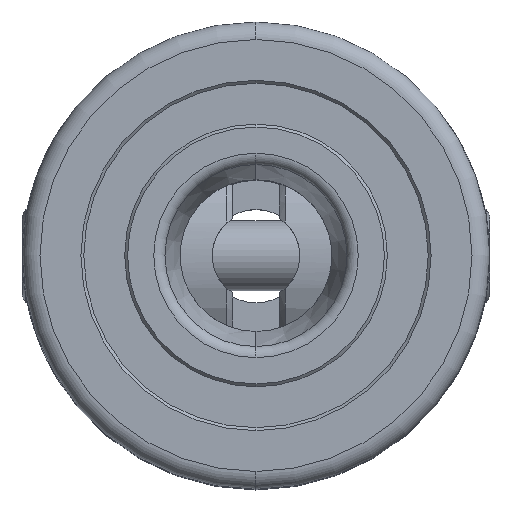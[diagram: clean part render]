
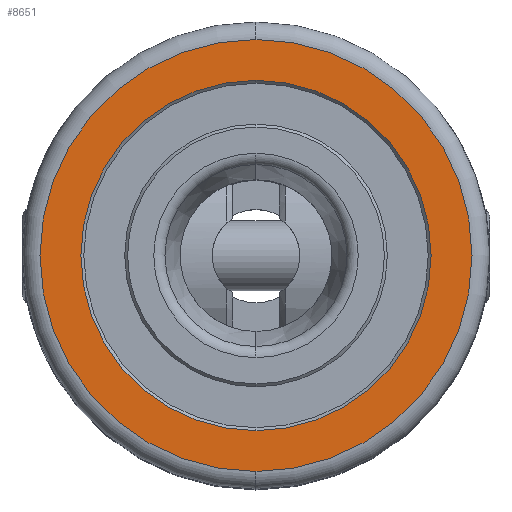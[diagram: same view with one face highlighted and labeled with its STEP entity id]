
A CAD part, top view. The second image highlights one B-rep face of the part: STEP entity #8651.
In plain terms, the highlighted planar face has unit normal (0, 0, 1).
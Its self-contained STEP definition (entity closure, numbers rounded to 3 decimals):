
#229 = EDGE_CURVE ( 'NONE', #1479, #2845, #7787, .T. ) ;
#289 = AXIS2_PLACEMENT_3D ( 'NONE', #4399, #9189, #577 ) ;
#577 = DIRECTION ( 'NONE',  ( 0., -1., 0. ) ) ;
#654 = PLANE ( 'NONE',  #9604 ) ;
#849 = CARTESIAN_POINT ( 'NONE',  ( 0., 0., 100. ) ) ;
#957 = CIRCLE ( 'NONE', #289, 37. ) ;
#1170 = CARTESIAN_POINT ( 'NONE',  ( 0., -30., 100. ) ) ;
#1479 = VERTEX_POINT ( 'NONE', #1170 ) ;
#1778 = CIRCLE ( 'NONE', #9773, 37. ) ;
#2021 = DIRECTION ( 'NONE',  ( 0., -1., 0. ) ) ;
#2638 = VERTEX_POINT ( 'NONE', #7901 ) ;
#2845 = VERTEX_POINT ( 'NONE', #4946 ) ;
#2986 = DIRECTION ( 'NONE',  ( 0., 0., -1. ) ) ;
#3742 = EDGE_CURVE ( 'NONE', #2845, #1479, #5344, .T. ) ;
#3813 = DIRECTION ( 'NONE',  ( 0., 0., 1. ) ) ;
#4096 = ORIENTED_EDGE ( 'NONE', *, *, #9133, .T. ) ;
#4399 = CARTESIAN_POINT ( 'NONE',  ( 0., 0., 100. ) ) ;
#4759 = ORIENTED_EDGE ( 'NONE', *, *, #3742, .T. ) ;
#4946 = CARTESIAN_POINT ( 'NONE',  ( 0., 30., 100. ) ) ;
#5021 = EDGE_LOOP ( 'NONE', ( #8671, #4759 ) ) ;
#5115 = DIRECTION ( 'NONE',  ( 0., 0., 1. ) ) ;
#5222 = CARTESIAN_POINT ( 'NONE',  ( 0., 0., 100. ) ) ;
#5269 = CARTESIAN_POINT ( 'NONE',  ( 0., 0., 100. ) ) ;
#5344 = CIRCLE ( 'NONE', #5670, 30. ) ;
#5670 = AXIS2_PLACEMENT_3D ( 'NONE', #849, #2986, #7683 ) ;
#6118 = DIRECTION ( 'NONE',  ( 0., -1., 0. ) ) ;
#6425 = ORIENTED_EDGE ( 'NONE', *, *, #9576, .T. ) ;
#6519 = CARTESIAN_POINT ( 'NONE',  ( 0., -37., 100. ) ) ;
#6674 = VERTEX_POINT ( 'NONE', #6519 ) ;
#7683 = DIRECTION ( 'NONE',  ( 0., 1., 0. ) ) ;
#7787 = CIRCLE ( 'NONE', #8768, 30. ) ;
#7901 = CARTESIAN_POINT ( 'NONE',  ( 0., 37., 100. ) ) ;
#8366 = DIRECTION ( 'NONE',  ( 0., 1., 0. ) ) ;
#8416 = DIRECTION ( 'NONE',  ( 0., 0., -1. ) ) ;
#8651 = ADVANCED_FACE ( 'NONE', ( #9265, #9109 ), #654, .T. ) ;
#8671 = ORIENTED_EDGE ( 'NONE', *, *, #229, .T. ) ;
#8768 = AXIS2_PLACEMENT_3D ( 'NONE', #5269, #8416, #8366 ) ;
#9109 = FACE_BOUND ( 'NONE', #5021, .T. ) ;
#9133 = EDGE_CURVE ( 'NONE', #6674, #2638, #1778, .T. ) ;
#9189 = DIRECTION ( 'NONE',  ( 0., 0., 1. ) ) ;
#9265 = FACE_OUTER_BOUND ( 'NONE', #9760, .T. ) ;
#9576 = EDGE_CURVE ( 'NONE', #2638, #6674, #957, .T. ) ;
#9604 = AXIS2_PLACEMENT_3D ( 'NONE', #9868, #3813, #6118 ) ;
#9760 = EDGE_LOOP ( 'NONE', ( #4096, #6425 ) ) ;
#9773 = AXIS2_PLACEMENT_3D ( 'NONE', #5222, #5115, #2021 ) ;
#9868 = CARTESIAN_POINT ( 'NONE',  ( 13., 0., 100. ) ) ;
